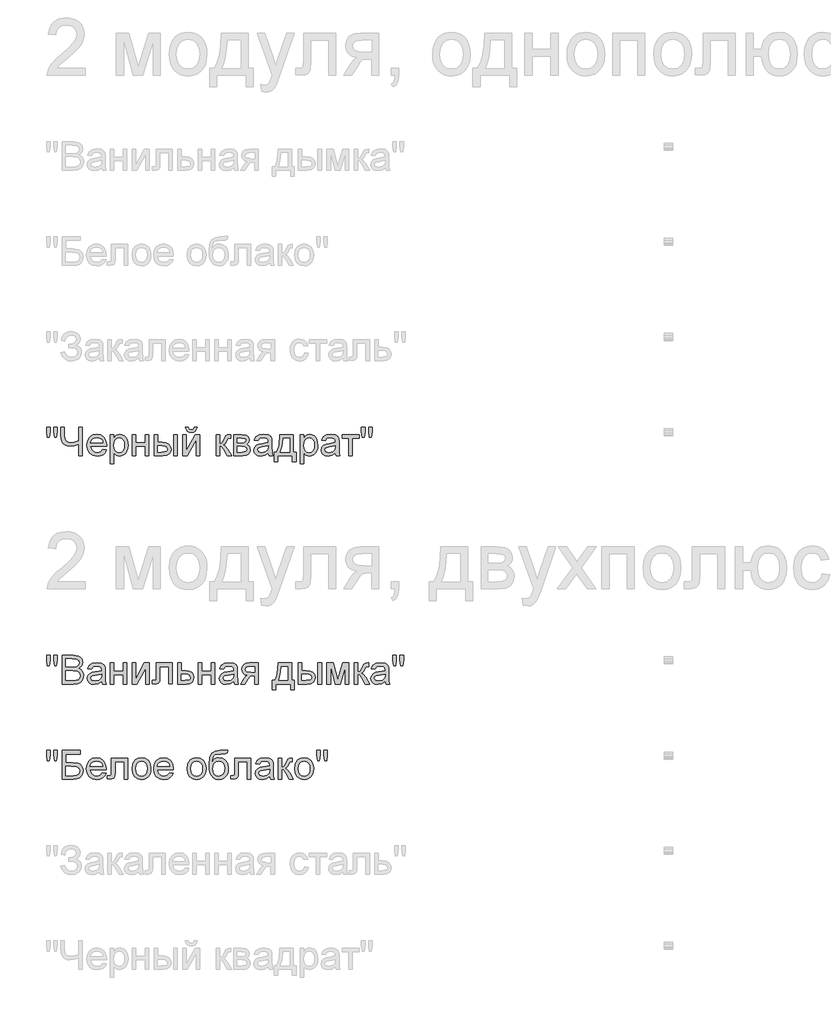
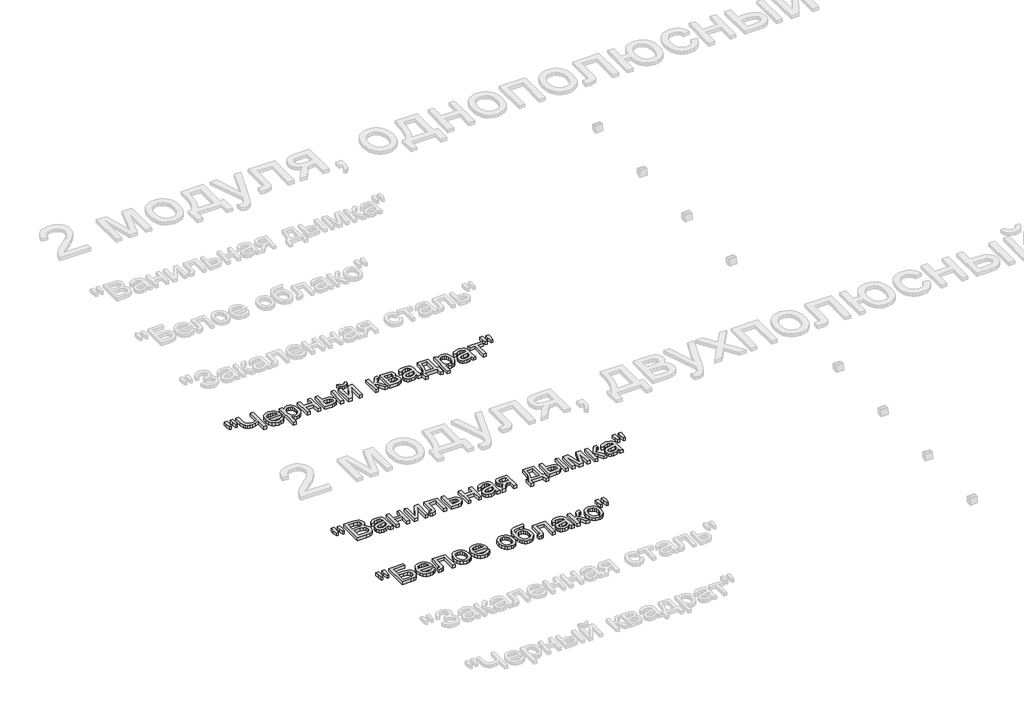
# One storey, part 16 of 168: 3 proxies.
"""IFC4 building model written with IfcOpenShell, lengths in millimetres."""

from ifc_helpers import new_model, si_unit, origin, origin_with_axes, place, context, project, spatial, polyline, outline, extrude, element, save

model = new_model("IFC4")

# Units and contexts
model_context = context("Model", 3, world=origin())
ifc_project = project(units=[si_unit("LENGTHUNIT", "METRE", prefix="MILLI")], contexts=[model_context])

# Site, building, storey
site = spatial("IfcSite", under=ifc_project)
building = spatial("IfcBuilding", under=site)
storey = spatial("IfcBuildingStorey", under=building, Name="Этаж 01", Elevation=0.0)

# Proxies
placement = place(None, origin())
element("IfcBuildingElementProxy", 1, Name="150", ObjectType="150", at=placement, inside=storey, context=model_context, shape_type="SweptSolid", body=[
    extrude(outline(polyline([(41980.1485789, -51264.0640488), (41975.550054, -51234.9645829), (41975.550054, -51209.9118191), (41994.3856121, -51209.9118191), (41994.3856121, -51234.9645829), (41990.2653338, -51264.0640488), (41980.1485789, -51264.0640488)])), origin_with_axes(), (0.0, 0.0, 1.0), 20.0),
    extrude(outline(polyline([(42017.7093306, -51264.0640488), (42013.2211703, -51234.9645829), (42013.2211703, -51209.9118191), (42032.0567284, -51209.9118191), (42032.0567284, -51234.9645829), (42027.6421445, -51264.0640488), (42017.7093306, -51264.0640488)])), origin_with_axes(), (0.0, 0.0, 1.0), 20.0),
    extrude(outline(polyline([(42163.9056355, -51360.5962843), (42145.0700773, -51360.5962843), (42145.0700773, -51300.2636371), (42120.0908899, -51308.4306174), (42098.4226404, -51311.1529441), (42083.7395502, -51309.2905415), (42070.886673, -51303.7033337), (42060.926268, -51295.2512449), (42054.9205944, -51284.7941992), (42050.8922866, -51254.7934225), (42050.8922866, -51209.9118191), (42069.7278447, -51209.9118191), (42069.7278447, -51252.2550367), (42071.990319, -51272.6219037), (42078.7777418, -51284.57347), (42088.7381468, -51290.381407), (42100.5195677, -51292.317386), (42122.2521966, -51289.9813353), (42145.0700773, -51282.9731833), (42145.0700773, -51209.9118191), (42163.9056355, -51209.9118191), (42163.9056355, -51360.5962843)])), origin_with_axes(), (0.0, 0.0, 1.0), 20.0),
    extrude(outline(polyline([(42271.9893657, -51327.6340575), (42290.4570418, -51329.9885023), (42283.8029762, -51343.9036388), (42273.1849822, -51354.3055022), (42258.8421829, -51360.7894223), (42241.0137017, -51362.9507291), (42218.9131908, -51359.2213253), (42201.9078456, -51348.0331142), (42191.0645238, -51330.1126625), (42187.4500832, -51306.1865372), (42191.101312, -51281.4556701), (42202.0549984, -51262.9604028), (42218.8304174, -51251.4273022), (42239.9468439, -51247.5829354), (42260.4056814, -51251.4181052), (42276.7534375, -51262.9236146), (42287.4725992, -51281.3820937), (42291.045653, -51306.0761726), (42290.9352884, -51311.1529441), (42206.2856413, -51311.1529441), (42209.5459955, -51325.2520216), (42217.1197661, -51335.6170968), (42228.0504599, -51341.9906524), (42241.3815837, -51344.1151709), (42259.8492598, -51340.1788336), (42271.9893657, -51327.6340575)]), holes=[polyline([(42206.2856413, -51292.317386), (42272.2100949, -51292.317386), (42269.6625121, -51282.366178), (42264.668514, -51275.2476614), (42253.6872364, -51268.6257855), (42239.8732675, -51266.4184935), (42227.1767401, -51268.1797286), (42216.6783077, -51273.4634337), (42209.3804486, -51281.6993919), (42206.2856413, -51292.317386)])]), origin_with_axes(), (0.0, 0.0, 1.0), 20.0),
    extrude(outline(polyline([(42309.8812112, -51402.9762901), (42309.8812112, -51249.9373802), (42328.7167693, -51249.9373802), (42328.7167693, -51268.4050563), (42341.739792, -51252.7884656), (42359.3245513, -51247.5829354), (42372.0624654, -51249.4039513), (42383.2000928, -51254.8669989), (42392.268384, -51263.6409845), (42398.7982894, -51275.3948142), (42404.0590019, -51304.4207036), (42402.5736784, -51320.5293365), (42398.1177077, -51334.9365151), (42390.8336442, -51346.9110741), (42380.8640422, -51355.7218479), (42369.2527667, -51361.1435088), (42357.043683, -51362.9507291), (42340.6545401, -51358.1130808), (42328.7167693, -51345.8810045), (42328.7167693, -51402.9762901), (42309.8812112, -51402.9762901)]), holes=[polyline([(42328.7167693, -51306.149749), (42330.7539159, -51323.0355326), (42336.8653555, -51334.8445446), (42345.8830629, -51341.7975143), (42356.6390128, -51344.1151709), (42367.5697066, -51341.7147409), (42376.8173402, -51334.5134508), (42383.1219179, -51322.2721775), (42385.2234438, -51304.7517974), (42383.1725017, -51287.9579844), (42377.0196753, -51275.9834254), (42368.0157635, -51268.8097265), (42357.411565, -51266.4184935), (42346.7659797, -51268.9614778), (42337.4171785, -51276.5904307), (42330.8918716, -51289.0662289), (42328.7167693, -51306.149749)])]), origin_with_axes(), (0.0, 0.0, 1.0), 20.0),
    extrude(outline(polyline([(42425.2490049, -51249.9373802), (42444.084563, -51249.9373802), (42444.084563, -51292.317386), (42493.5279032, -51292.317386), (42493.5279032, -51249.9373802), (42512.3634613, -51249.9373802), (42512.3634613, -51360.5962843), (42493.5279032, -51360.5962843), (42493.5279032, -51311.1529441), (42444.084563, -51311.1529441), (42444.084563, -51360.5962843), (42425.2490049, -51360.5962843), (42425.2490049, -51249.9373802)])), origin_with_axes(), (0.0, 0.0, 1.0), 20.0),
    extrude(outline(polyline([(42644.2123684, -51249.9373802), (42663.0479266, -51249.9373802), (42663.0479266, -51360.5962843), (42644.2123684, -51360.5962843), (42644.2123684, -51249.9373802)])), origin_with_axes(), (0.0, 0.0, 1.0), 20.0),
    extrude(outline(polyline([(42540.6167986, -51249.9373802), (42559.4523567, -51249.9373802), (42559.4523567, -51289.9629412), (42582.739287, -51289.9629412), (42602.8670307, -51292.3219845), (42617.780047, -51299.3991144), (42627.0092866, -51310.6241138), (42630.0856998, -51325.4267656), (42627.5059273, -51338.9050422), (42619.7666098, -51350.2771943), (42606.3619096, -51358.0165118), (42586.785989, -51360.5962843), (42540.6167986, -51360.5962843), (42540.6167986, -51249.9373802)]), holes=[polyline([(42559.4523567, -51341.7607261), (42578.8029497, -51341.7607261), (42603.7821371, -51337.8059947), (42609.3831405, -51332.7430187), (42611.2501416, -51325.4635538), (42605.7135176, -51313.8752709), (42596.8337659, -51310.0676923), (42581.267759, -51308.7984994), (42559.4523567, -51308.7984994), (42559.4523567, -51341.7607261)])]), origin_with_axes(), (0.0, 0.0, 1.0), 20.0),
    extrude(outline(polyline([(42691.3012638, -51249.9373802), (42710.1368219, -51249.9373802), (42710.1368219, -51334.3295098), (42756.4163769, -51249.9373802), (42780.770165, -51249.9373802), (42780.770165, -51360.5962843), (42761.9346069, -51360.5962843), (42761.9346069, -51276.7191894), (42715.9493575, -51360.5962843), (42691.3012638, -51360.5962843), (42691.3012638, -51249.9373802)])), origin_with_axes(), (0.0, 0.0, 1.0), 20.0),
    extrude(outline(polyline([(42752.5168278, -51209.9118191), (42766.6434964, -51209.9118191), (42763.6038714, -51221.97375), (42757.5016288, -51230.8626987), (42748.6126801, -51236.3395419), (42737.2129368, -51238.1651563), (42724.8429047, -51236.3533375), (42715.2503817, -51230.917881), (42708.6928851, -51222.0427279), (42705.4279324, -51209.9118191), (42719.554601, -51209.9118191), (42724.8521017, -51220.5252146), (42735.5206796, -51224.0384877), (42747.219327, -51220.6355792), (42752.5168278, -51209.9118191)])), origin_with_axes(), (0.0, 0.0, 1.0), 20.0),
    extrude(outline(polyline([(42867.8846215, -51249.9373802), (42886.7201796, -51249.9373802), (42886.7201796, -51297.0262755), (42899.3385321, -51293.6417612), (42909.6760161, -51273.9232862), (42918.2660607, -51256.908744), (42925.8444298, -51251.3721199), (42939.6216105, -51249.9373802), (42943.2268541, -51249.9373802), (42943.2268541, -51268.8833029), (42938.1500825, -51268.7729383), (42928.9530327, -51270.7595011), (42922.4783096, -51283.1571243), (42914.8815464, -51296.566423), (42904.2313626, -51303.1331167), (42916.113951, -51310.4631654), (42927.7758103, -51325.9050122), (42947.9357436, -51360.5962843), (42926.5250115, -51360.5962843), (42906.7697484, -51326.6407761), (42896.8369345, -51312.2749842), (42886.7201796, -51308.7984994), (42886.7201796, -51360.5962843), (42867.8846215, -51360.5962843), (42867.8846215, -51249.9373802)])), origin_with_axes(), (0.0, 0.0, 1.0), 20.0),
    extrude(outline(polyline([(42959.7079675, -51249.9373802), (43001.2050565, -51249.9373802), (43023.9585579, -51252.4573718), (43036.7608514, -51261.6912099), (43042.1135344, -51277.7860472), (43038.8761728, -51290.8642521), (43029.1273, -51300.1900607), (43041.7824406, -51310.3987861), (43046.8224239, -51328.1490923), (43043.6310476, -51342.5056872), (43036.0434815, -51352.613245), (43024.0321343, -51358.6005245), (43007.569415, -51360.5962843), (42959.7079675, -51360.5962843), (42959.7079675, -51249.9373802)]), holes=[polyline([(42978.5435256, -51292.317386), (42997.1583546, -51292.317386), (43012.5174279, -51291.3608928), (43019.9854324, -51287.5349201), (43023.2779762, -51280.6187385), (43021.8340394, -51274.9993411), (43017.5022289, -51271.3849005), (42997.7469658, -51268.7729383), (42978.5435256, -51268.7729383), (42978.5435256, -51292.317386)]), polyline([(42978.5435256, -51341.7607261), (43001.6465149, -51341.7607261), (43022.137542, -51338.3578177), (43026.377382, -51333.717906), (43027.9868658, -51326.6039879), (43024.7678983, -51317.5356968), (43016.3801888, -51312.2565901), (42999.8071049, -51311.1529441), (42978.5435256, -51311.1529441), (42978.5435256, -51341.7607261)])]), origin_with_axes(), (0.0, 0.0, 1.0), 20.0),
    extrude(outline(polyline([(43141.0002147, -51346.4696157), (43122.7348736, -51359.2351209), (43102.5565462, -51362.9507291), (43086.8157953, -51360.7158459), (43075.2045198, -51354.0111966), (43068.0446165, -51343.8300624), (43065.6579821, -51331.1657247), (43069.2632256, -51316.2665039), (43078.736187, -51305.4507732), (43091.9247565, -51299.2703557), (43108.2219289, -51296.4376643), (43140.8898501, -51289.9629412), (43141.0002147, -51285.7690865), (43139.7034307, -51277.3629829), (43135.8130786, -51271.8631471), (43127.1126694, -51267.7796569), (43114.9909576, -51266.4184935), (43095.9346703, -51270.0421312), (43086.847985, -51282.8996069), (43068.0124268, -51280.5451621), (43076.161013, -51262.1510624), (43092.56855, -51251.3721199), (43117.4189788, -51247.5829354), (43140.2460566, -51250.9306615), (43153.1403205, -51259.3367651), (43158.9160679, -51272.1206645), (43159.8357728, -51288.6017778), (43159.8357728, -51312.0358609), (43160.792266, -51344.7589644), (43164.5446624, -51360.5962843), (43145.7091042, -51360.5962843), (43141.0002147, -51346.4696157)]), holes=[polyline([(43141.0002147, -51308.7984994), (43110.6131619, -51314.5742467), (43094.40796, -51317.6276673), (43087.0687142, -51322.5940742), (43084.4935402, -51329.8413495), (43090.1037407, -51340.0316808), (43106.5664599, -51344.1151709), (43125.6227473, -51339.6086165), (43137.9100059, -51328.7009153), (43140.8898501, -51314.1327883), (43141.0002147, -51308.7984994)])]), origin_with_axes(), (0.0, 0.0, 1.0), 20.0),
    extrude(outline(polyline([(43202.2157787, -51249.9373802), (43272.8491218, -51249.9373802), (43272.8491218, -51341.7607261), (43286.9757904, -51341.7607261), (43286.9757904, -51391.2040663), (43268.1402322, -51391.2040663), (43268.1402322, -51360.5962843), (43190.4435548, -51360.5962843), (43190.4435548, -51391.2040663), (43171.6079967, -51391.2040663), (43171.6079967, -51341.7607261), (43183.3802205, -51341.7607261), (43191.9380754, -51326.2958868), (43197.9299534, -51305.8370493), (43202.2157787, -51249.9373802)]), holes=[polyline([(43218.6968921, -51268.7729383), (43214.2823081, -51311.686373), (43204.5702235, -51341.7607261), (43254.0135636, -51341.7607261), (43254.0135636, -51268.7729383), (43218.6968921, -51268.7729383)])]), origin_with_axes(), (0.0, 0.0, 1.0), 20.0),
    extrude(outline(polyline([(43308.1657933, -51402.9762901), (43308.1657933, -51249.9373802), (43327.0013514, -51249.9373802), (43327.0013514, -51268.4050563), (43340.0243741, -51252.7884656), (43357.6091334, -51247.5829354), (43370.3470475, -51249.4039513), (43381.4846749, -51254.8669989), (43390.5529661, -51263.6409845), (43397.0828715, -51275.3948142), (43402.3435841, -51304.4207036), (43400.8582605, -51320.5293365), (43396.4022898, -51334.9365151), (43389.1182263, -51346.9110741), (43379.1486243, -51355.7218479), (43367.5373488, -51361.1435088), (43355.3282651, -51362.9507291), (43338.9391222, -51358.1130808), (43327.0013514, -51345.8810045), (43327.0013514, -51402.9762901), (43308.1657933, -51402.9762901)]), holes=[polyline([(43327.0013514, -51306.149749), (43329.038498, -51323.0355326), (43335.1499376, -51334.8445446), (43344.167645, -51341.7975143), (43354.9235949, -51344.1151709), (43365.8542887, -51341.7147409), (43375.1019223, -51334.5134508), (43381.4065, -51322.2721775), (43383.5080259, -51304.7517974), (43381.4570838, -51287.9579844), (43375.3042574, -51275.9834254), (43366.3003456, -51268.8097265), (43355.6961471, -51266.4184935), (43345.0505618, -51268.9614778), (43335.7017606, -51276.5904307), (43329.1764537, -51289.0662289), (43327.0013514, -51306.149749)])]), origin_with_axes(), (0.0, 0.0, 1.0), 20.0),
    extrude(outline(polyline([(43494.1669301, -51346.4696157), (43475.901589, -51359.2351209), (43455.7232616, -51362.9507291), (43439.9825107, -51360.7158459), (43428.3712352, -51354.0111966), (43421.2113319, -51343.8300624), (43418.8246974, -51331.1657247), (43422.429941, -51316.2665039), (43431.9029024, -51305.4507732), (43445.0914719, -51299.2703557), (43461.3886443, -51296.4376643), (43494.0565655, -51289.9629412), (43494.1669301, -51285.7690865), (43492.870146, -51277.3629829), (43488.9797939, -51271.8631471), (43480.2793847, -51267.7796569), (43468.157673, -51266.4184935), (43449.1013856, -51270.0421312), (43440.0147004, -51282.8996069), (43421.1791422, -51280.5451621), (43429.3277284, -51262.1510624), (43445.7352654, -51251.3721199), (43470.5856942, -51247.5829354), (43493.412772, -51250.9306615), (43506.3070359, -51259.3367651), (43512.0827832, -51272.1206645), (43513.0024882, -51288.6017778), (43513.0024882, -51312.0358609), (43513.9589814, -51344.7589644), (43517.7113777, -51360.5962843), (43498.8758196, -51360.5962843), (43494.1669301, -51346.4696157)]), holes=[polyline([(43494.1669301, -51308.7984994), (43463.7798773, -51314.5742467), (43447.5746754, -51317.6276673), (43440.2354296, -51322.5940742), (43437.6602556, -51329.8413495), (43443.270456, -51340.0316808), (43459.7331753, -51344.1151709), (43478.7894627, -51339.6086165), (43491.0767213, -51328.7009153), (43494.0565655, -51314.1327883), (43494.1669301, -51308.7984994)])]), origin_with_axes(), (0.0, 0.0, 1.0), 20.0),
    extrude(outline(polyline([(43529.4836016, -51249.9373802), (43618.9525028, -51249.9373802), (43618.9525028, -51268.7729383), (43583.6358313, -51268.7729383), (43583.6358313, -51360.5962843), (43564.8002731, -51360.5962843), (43564.8002731, -51268.7729383), (43529.4836016, -51268.7729383), (43529.4836016, -51249.9373802)])), origin_with_axes(), (0.0, 0.0, 1.0), 20.0),
    extrude(outline(polyline([(43635.3232516, -51264.0640488), (43630.7247267, -51234.9645829), (43630.7247267, -51209.9118191), (43649.5602848, -51209.9118191), (43649.5602848, -51234.9645829), (43645.4400065, -51264.0640488), (43635.3232516, -51264.0640488)])), origin_with_axes(), (0.0, 0.0, 1.0), 20.0),
    extrude(outline(polyline([(43672.8840033, -51264.0640488), (43668.395843, -51234.9645829), (43668.395843, -51209.9118191), (43687.2314011, -51209.9118191), (43687.2314011, -51234.9645829), (43682.8168172, -51264.0640488), (43672.8840033, -51264.0640488)])), origin_with_axes(), (0.0, 0.0, 1.0), 20.0),
])
element("IfcBuildingElementProxy", 2, Name="150", ObjectType="150", at=placement, inside=storey, context=model_context, shape_type="SweptSolid", body=[
    extrude(outline(polyline([(41980.1485789, -52464.0640488), (41975.550054, -52434.9645829), (41975.550054, -52409.9118191), (41994.3856121, -52409.9118191), (41994.3856121, -52434.9645829), (41990.2653338, -52464.0640488), (41980.1485789, -52464.0640488)])), origin_with_axes(), (0.0, 0.0, 1.0), 20.0),
    extrude(outline(polyline([(42017.7093306, -52464.0640488), (42013.2211703, -52434.9645829), (42013.2211703, -52409.9118191), (42032.0567284, -52409.9118191), (42032.0567284, -52434.9645829), (42027.6421445, -52464.0640488), (42017.7093306, -52464.0640488)])), origin_with_axes(), (0.0, 0.0, 1.0), 20.0),
    extrude(outline(polyline([(42057.9556209, -52560.5962843), (42057.9556209, -52409.9118191), (42115.4555767, -52409.9118191), (42143.6169435, -52414.3447971), (42153.0807078, -52419.9687931), (42160.2452096, -52427.974825), (42166.2600803, -52447.2518416), (42161.2017028, -52464.8549951), (42145.9162059, -52478.1907174), (42156.5893823, -52483.7641296), (42164.4758526, -52492.2438096), (42169.3456905, -52503.0687373), (42170.9689698, -52515.6778927), (42166.5359918, -52535.9297965), (42155.5547142, -52550.3507707), (42139.1655713, -52558.0027162), (42115.0141183, -52560.5962843), (42057.9556209, -52560.5962843)]), holes=[polyline([(42076.791179, -52471.1273831), (42111.1881456, -52471.1273831), (42131.2745025, -52469.5087023), (42143.3594261, -52462.5373385), (42147.4245221, -52450.2684739), (42143.6353376, -52437.9812153), (42132.7828187, -52430.7155459), (42108.5761834, -52428.7473772), (42076.791179, -52428.7473772), (42076.791179, -52471.1273831)]), polyline([(42076.791179, -52541.7607261), (42115.4187885, -52541.7607261), (42129.3983043, -52541.0249622), (42141.2257105, -52536.9230779), (42149.061597, -52528.5537625), (42152.1334117, -52515.8618337), (42148.5281681, -52501.2201303), (42136.8479148, -52492.4829329), (42113.5793786, -52489.9629412), (42076.791179, -52489.9629412), (42076.791179, -52541.7607261)])]), origin_with_axes(), (0.0, 0.0, 1.0), 20.0),
    extrude(outline(polyline([(42265.1467606, -52546.4696157), (42246.8814195, -52559.2351209), (42226.7030921, -52562.9507291), (42210.9623412, -52560.7158459), (42199.3510657, -52554.0111966), (42192.1911624, -52543.8300624), (42189.804528, -52531.1657247), (42193.4097715, -52516.2665039), (42202.8827329, -52505.4507732), (42216.0713024, -52499.2703557), (42232.3684748, -52496.4376643), (42265.036396, -52489.9629412), (42265.1467606, -52485.7690865), (42263.8499765, -52477.3629829), (42259.9596244, -52471.8631471), (42251.2592153, -52467.7796569), (42239.1375035, -52466.4184935), (42220.0812162, -52470.0421312), (42210.9945309, -52482.8996069), (42192.1589727, -52480.5451621), (42200.3075589, -52462.1510624), (42216.7150959, -52451.3721199), (42241.5655247, -52447.5829354), (42264.3926025, -52450.9306615), (42277.2868664, -52459.3367651), (42283.0626137, -52472.1206645), (42283.9823187, -52488.6017778), (42283.9823187, -52512.0358609), (42284.9388119, -52544.7589644), (42288.6912083, -52560.5962843), (42269.8556501, -52560.5962843), (42265.1467606, -52546.4696157)]), holes=[polyline([(42265.1467606, -52508.7984994), (42234.7597078, -52514.5742467), (42218.5545059, -52517.6276673), (42211.2152601, -52522.5940742), (42208.6400861, -52529.8413495), (42214.2502865, -52540.0316808), (42230.7130058, -52544.1151709), (42249.7692932, -52539.6086165), (42262.0565518, -52528.7009153), (42265.036396, -52514.1327883), (42265.1467606, -52508.7984994)])]), origin_with_axes(), (0.0, 0.0, 1.0), 20.0),
    extrude(outline(polyline([(42309.8812112, -52449.9373802), (42328.7167693, -52449.9373802), (42328.7167693, -52492.317386), (42378.1601095, -52492.317386), (42378.1601095, -52449.9373802), (42396.9956676, -52449.9373802), (42396.9956676, -52560.5962843), (42378.1601095, -52560.5962843), (42378.1601095, -52511.1529441), (42328.7167693, -52511.1529441), (42328.7167693, -52560.5962843), (42309.8812112, -52560.5962843), (42309.8812112, -52449.9373802)])), origin_with_axes(), (0.0, 0.0, 1.0), 20.0),
    extrude(outline(polyline([(42425.2490049, -52449.9373802), (42444.084563, -52449.9373802), (42444.084563, -52534.3295098), (42490.364118, -52449.9373802), (42514.7179061, -52449.9373802), (42514.7179061, -52560.5962843), (42495.8823479, -52560.5962843), (42495.8823479, -52476.7191894), (42449.8970985, -52560.5962843), (42425.2490049, -52560.5962843), (42425.2490049, -52449.9373802)])), origin_with_axes(), (0.0, 0.0, 1.0), 20.0),
    extrude(outline(polyline([(42552.3890224, -52449.9373802), (42637.1490341, -52449.9373802), (42637.1490341, -52560.4859197), (42618.3134759, -52560.4859197), (42618.3134759, -52468.7729383), (42571.2245806, -52468.7729383), (42571.2245806, -52521.5640046), (42569.9553877, -52545.9177927), (42562.9840239, -52556.2000945), (42546.5029105, -52560.5962843), (42531.1990195, -52559.6397911), (42531.1990195, -52541.7607261), (42539.6235172, -52541.7607261), (42548.1399854, -52540.6018979), (42551.5428938, -52536.9230779), (42552.3890224, -52520.4971468), (42552.3890224, -52449.9373802)])), origin_with_axes(), (0.0, 0.0, 1.0), 20.0),
    extrude(outline(polyline([(42665.4023713, -52449.9373802), (42684.2379295, -52449.9373802), (42684.2379295, -52489.9629412), (42705.9429672, -52489.9629412), (42724.7601312, -52492.3219845), (42738.6844648, -52499.3991144), (42747.2929034, -52510.6241138), (42750.162383, -52525.4267656), (42747.7205663, -52538.9050422), (42740.395116, -52550.2771943), (42727.6985887, -52558.0165118), (42709.1435405, -52560.5962843), (42665.4023713, -52560.5962843), (42665.4023713, -52449.9373802)]), holes=[polyline([(42684.2379295, -52541.7607261), (42701.8226888, -52541.7607261), (42724.539402, -52537.8059947), (42729.6299692, -52532.7430187), (42731.3268249, -52525.4635538), (42726.3052356, -52513.8752709), (42718.2348244, -52510.0676923), (42704.066769, -52508.7984994), (42684.2379295, -52508.7984994), (42684.2379295, -52541.7607261)])]), origin_with_axes(), (0.0, 0.0, 1.0), 20.0),
    extrude(outline(polyline([(42773.7068307, -52449.9373802), (42792.5423889, -52449.9373802), (42792.5423889, -52492.317386), (42841.985729, -52492.317386), (42841.985729, -52449.9373802), (42860.8212872, -52449.9373802), (42860.8212872, -52560.5962843), (42841.985729, -52560.5962843), (42841.985729, -52511.1529441), (42792.5423889, -52511.1529441), (42792.5423889, -52560.5962843), (42773.7068307, -52560.5962843), (42773.7068307, -52449.9373802)])), origin_with_axes(), (0.0, 0.0, 1.0), 20.0),
    extrude(outline(polyline([(42959.7079675, -52546.4696157), (42941.4426264, -52559.2351209), (42921.264299, -52562.9507291), (42905.5235481, -52560.7158459), (42893.9122726, -52554.0111966), (42886.7523693, -52543.8300624), (42884.3657349, -52531.1657247), (42887.9709784, -52516.2665039), (42897.4439398, -52505.4507732), (42910.6325093, -52499.2703557), (42926.9296817, -52496.4376643), (42959.5976029, -52489.9629412), (42959.7079675, -52485.7690865), (42958.4111834, -52477.3629829), (42954.5208313, -52471.8631471), (42945.8204221, -52467.7796569), (42933.6987104, -52466.4184935), (42914.6424231, -52470.0421312), (42905.5557378, -52482.8996069), (42886.7201796, -52480.5451621), (42894.8687658, -52462.1510624), (42911.2763028, -52451.3721199), (42936.1267316, -52447.5829354), (42958.9538094, -52450.9306615), (42971.8480733, -52459.3367651), (42977.6238206, -52472.1206645), (42978.5435256, -52488.6017778), (42978.5435256, -52512.0358609), (42979.5000188, -52544.7589644), (42983.2524152, -52560.5962843), (42964.416857, -52560.5962843), (42959.7079675, -52546.4696157)]), holes=[polyline([(42959.7079675, -52508.7984994), (42929.3209147, -52514.5742467), (42913.1157128, -52517.6276673), (42905.776467, -52522.5940742), (42903.201293, -52529.8413495), (42908.8114934, -52540.0316808), (42925.2742127, -52544.1151709), (42944.3305001, -52539.6086165), (42956.6177587, -52528.7009153), (42959.5976029, -52514.1327883), (42959.7079675, -52508.7984994)])]), origin_with_axes(), (0.0, 0.0, 1.0), 20.0),
    extrude(outline(polyline([(43089.2024298, -52449.9373802), (43089.2024298, -52560.5962843), (43070.3668716, -52560.5962843), (43070.3668716, -52518.2162785), (43060.1029639, -52518.2162785), (43046.1234481, -52520.6075114), (43032.9900609, -52536.6839546), (43017.9804755, -52560.5962843), (42996.2018614, -52560.5962843), (43015.1109959, -52530.3563843), (43023.4619172, -52519.5038654), (43031.1506509, -52514.6846113), (43018.2747811, -52510.7390769), (43009.224884, -52503.2434813), (43003.872201, -52493.2738792), (43002.0879733, -52481.9063255), (43004.5251915, -52469.0120616), (43011.8368462, -52458.8033362), (43023.7654199, -52452.1538692), (43040.0533952, -52449.9373802), (43089.2024298, -52449.9373802)]), holes=[polyline([(43070.3668716, -52468.7729383), (43045.5348369, -52468.7729383), (43032.7095509, -52469.8627887), (43025.4300859, -52473.1323399), (43020.9235315, -52483.3410653), (43022.583599, -52490.5193627), (43027.5638015, -52495.4995653), (43051.0898551, -52499.3807203), (43070.3668716, -52499.3807203), (43070.3668716, -52468.7729383)])]), origin_with_axes(), (0.0, 0.0, 1.0), 20.0),
    extrude(outline(polyline([(43192.7979996, -52449.9373802), (43263.4313427, -52449.9373802), (43263.4313427, -52541.7607261), (43277.5580113, -52541.7607261), (43277.5580113, -52591.2040663), (43258.7224531, -52591.2040663), (43258.7224531, -52560.5962843), (43181.0257758, -52560.5962843), (43181.0257758, -52591.2040663), (43162.1902176, -52591.2040663), (43162.1902176, -52541.7607261), (43173.9624415, -52541.7607261), (43182.5202964, -52526.2958868), (43188.5121744, -52505.8370493), (43192.7979996, -52449.9373802)]), holes=[polyline([(43209.279113, -52468.7729383), (43204.864529, -52511.686373), (43195.1524444, -52541.7607261), (43244.5957845, -52541.7607261), (43244.5957845, -52468.7729383), (43209.279113, -52468.7729383)])]), origin_with_axes(), (0.0, 0.0, 1.0), 20.0),
    extrude(outline(polyline([(43402.3435841, -52449.9373802), (43421.1791422, -52449.9373802), (43421.1791422, -52560.5962843), (43402.3435841, -52560.5962843), (43402.3435841, -52449.9373802)])), origin_with_axes(), (0.0, 0.0, 1.0), 20.0),
    extrude(outline(polyline([(43298.7480142, -52449.9373802), (43317.5835724, -52449.9373802), (43317.5835724, -52489.9629412), (43340.8705027, -52489.9629412), (43360.9982463, -52492.3219845), (43375.9112627, -52499.3991144), (43385.1405023, -52510.6241138), (43388.2169154, -52525.4267656), (43385.637143, -52538.9050422), (43377.8978255, -52550.2771943), (43364.4931253, -52558.0165118), (43344.9172046, -52560.5962843), (43298.7480142, -52560.5962843), (43298.7480142, -52449.9373802)]), holes=[polyline([(43317.5835724, -52541.7607261), (43336.9341653, -52541.7607261), (43361.9133528, -52537.8059947), (43367.5143562, -52532.7430187), (43369.3813573, -52525.4635538), (43363.8447333, -52513.8752709), (43354.9649816, -52510.0676923), (43339.3989747, -52508.7984994), (43317.5835724, -52508.7984994), (43317.5835724, -52541.7607261)])]), origin_with_axes(), (0.0, 0.0, 1.0), 20.0),
    extrude(outline(polyline([(43449.4324794, -52449.9373802), (43481.8428832, -52449.9373802), (43506.8220707, -52538.5233646), (43533.7510327, -52449.9373802), (43564.8002731, -52449.9373802), (43564.8002731, -52560.5962843), (43545.964715, -52560.5962843), (43545.964715, -52471.4952651), (43518.8886001, -52560.5962843), (43494.1669301, -52560.5962843), (43468.2680376, -52467.2278339), (43468.2680376, -52560.5962843), (43449.4324794, -52560.5962843), (43449.4324794, -52449.9373802)])), origin_with_axes(), (0.0, 0.0, 1.0), 20.0),
    extrude(outline(polyline([(43593.0536104, -52449.9373802), (43611.8891685, -52449.9373802), (43611.8891685, -52497.0262755), (43624.5075209, -52493.6417612), (43634.845005, -52473.9232862), (43643.4350496, -52456.908744), (43651.0134187, -52451.3721199), (43664.7905994, -52449.9373802), (43668.395843, -52449.9373802), (43668.395843, -52468.8833029), (43663.3190714, -52468.7729383), (43654.1220216, -52470.7595011), (43647.6472984, -52483.1571243), (43640.0505352, -52496.566423), (43629.4003515, -52503.1331167), (43641.2829399, -52510.4631654), (43652.9447992, -52525.9050122), (43673.1047325, -52560.5962843), (43651.6940004, -52560.5962843), (43631.9387372, -52526.6407761), (43622.0059234, -52512.2749842), (43611.8891685, -52508.7984994), (43611.8891685, -52560.5962843), (43593.0536104, -52560.5962843), (43593.0536104, -52449.9373802)])), origin_with_axes(), (0.0, 0.0, 1.0), 20.0),
    extrude(outline(polyline([(43755.5102994, -52546.4696157), (43737.2449584, -52559.2351209), (43717.0666309, -52562.9507291), (43701.3258801, -52560.7158459), (43689.7146046, -52554.0111966), (43682.5547013, -52543.8300624), (43680.1680668, -52531.1657247), (43683.7733104, -52516.2665039), (43693.2462717, -52505.4507732), (43706.4348413, -52499.2703557), (43722.7320137, -52496.4376643), (43755.3999348, -52489.9629412), (43755.5102994, -52485.7690865), (43754.2135154, -52477.3629829), (43750.3231633, -52471.8631471), (43741.6227541, -52467.7796569), (43729.5010424, -52466.4184935), (43710.444755, -52470.0421312), (43701.3580697, -52482.8996069), (43682.5225116, -52480.5451621), (43690.6710978, -52462.1510624), (43707.0786348, -52451.3721199), (43731.9290635, -52447.5829354), (43754.7561413, -52450.9306615), (43767.6504053, -52459.3367651), (43773.4261526, -52472.1206645), (43774.3458576, -52488.6017778), (43774.3458576, -52512.0358609), (43775.3023508, -52544.7589644), (43779.0547471, -52560.5962843), (43760.219189, -52560.5962843), (43755.5102994, -52546.4696157)]), holes=[polyline([(43755.5102994, -52508.7984994), (43725.1232466, -52514.5742467), (43708.9180447, -52517.6276673), (43701.5787989, -52522.5940742), (43699.003625, -52529.8413495), (43704.6138254, -52540.0316808), (43721.0765447, -52544.1151709), (43740.132832, -52539.6086165), (43752.4200907, -52528.7009153), (43755.3999348, -52514.1327883), (43755.5102994, -52508.7984994)])]), origin_with_axes(), (0.0, 0.0, 1.0), 20.0),
    extrude(outline(polyline([(43800.1343854, -52464.0640488), (43795.5358605, -52434.9645829), (43795.5358605, -52409.9118191), (43814.3714187, -52409.9118191), (43814.3714187, -52434.9645829), (43810.2511403, -52464.0640488), (43800.1343854, -52464.0640488)])), origin_with_axes(), (0.0, 0.0, 1.0), 20.0),
    extrude(outline(polyline([(43837.6951372, -52464.0640488), (43833.2069768, -52434.9645829), (43833.2069768, -52409.9118191), (43852.042535, -52409.9118191), (43852.042535, -52434.9645829), (43847.627951, -52464.0640488), (43837.6951372, -52464.0640488)])), origin_with_axes(), (0.0, 0.0, 1.0), 20.0),
])
element("IfcBuildingElementProxy", 3, Name="150", ObjectType="150", at=placement, inside=storey, context=model_context, shape_type="SweptSolid", body=[
    extrude(outline(polyline([(41980.1485789, -52964.0640488), (41975.550054, -52934.9645829), (41975.550054, -52909.9118191), (41994.3856121, -52909.9118191), (41994.3856121, -52934.9645829), (41990.2653338, -52964.0640488), (41980.1485789, -52964.0640488)])), origin_with_axes(), (0.0, 0.0, 1.0), 20.0),
    extrude(outline(polyline([(42017.7093306, -52964.0640488), (42013.2211703, -52934.9645829), (42013.2211703, -52909.9118191), (42032.0567284, -52909.9118191), (42032.0567284, -52934.9645829), (42027.6421445, -52964.0640488), (42017.7093306, -52964.0640488)])), origin_with_axes(), (0.0, 0.0, 1.0), 20.0),
    extrude(outline(polyline([(42057.9556209, -52909.9118191), (42152.1334117, -52909.9118191), (42152.1334117, -52928.7473772), (42076.791179, -52928.7473772), (42076.791179, -52973.4818278), (42112.0710624, -52973.4818278), (42143.157091, -52977.3078006), (42153.5589544, -52982.8352276), (42161.6615553, -52991.765563), (42166.8762826, -53003.2618754), (42168.614525, -53016.4872331), (42163.6665122, -53037.9531475), (42148.8960501, -53054.268714), (42135.6247071, -53059.0143917), (42115.4555767, -53060.5962843), (42057.9556209, -53060.5962843), (42057.9556209, -52909.9118191)]), holes=[polyline([(42076.791179, -53041.7607261), (42117.1478339, -53041.7607261), (42131.4124583, -53040.2064247), (42141.6119866, -53035.5435204), (42147.7372218, -53027.7720133), (42149.7789669, -53016.8919033), (42145.1068655, -53002.1398353), (42132.102237, -52994.2671606), (42103.7201411, -52992.317386), (42076.791179, -52992.317386), (42076.791179, -53041.7607261)])]), origin_with_axes(), (0.0, 0.0, 1.0), 20.0),
    extrude(outline(polyline([(42269.6349209, -53027.6340575), (42288.1025971, -53029.9885023), (42281.4485315, -53043.9036388), (42270.8305374, -53054.3055022), (42256.4877381, -53060.7894223), (42238.6592569, -53062.9507291), (42216.5587461, -53059.2213253), (42199.5534008, -53048.0331142), (42188.710079, -53030.1126625), (42185.0956384, -53006.1865372), (42188.7468672, -52981.4556701), (42199.7005536, -52962.9604028), (42216.4759726, -52951.4273022), (42237.5923991, -52947.5829354), (42258.0512366, -52951.4181052), (42274.3989927, -52962.9236146), (42285.1181544, -52981.3820937), (42288.6912083, -53006.0761726), (42288.5808437, -53011.1529441), (42203.9311966, -53011.1529441), (42207.1915508, -53025.2520216), (42214.7653213, -53035.6170968), (42225.6960151, -53041.9906524), (42239.0271389, -53044.1151709), (42257.4948151, -53040.1788336), (42269.6349209, -53027.6340575)]), holes=[polyline([(42203.9311966, -52992.317386), (42269.8556501, -52992.317386), (42267.3080673, -52982.366178), (42262.3140692, -52975.2476614), (42251.3327917, -52968.6257855), (42237.5188227, -52966.4184935), (42224.8222954, -52968.1797286), (42214.3238629, -52973.4634337), (42207.0260039, -52981.6993919), (42203.9311966, -52992.317386)])]), origin_with_axes(), (0.0, 0.0, 1.0), 20.0),
    extrude(outline(polyline([(42316.9445455, -52949.9373802), (42401.7045572, -52949.9373802), (42401.7045572, -53060.4859197), (42382.868999, -53060.4859197), (42382.868999, -52968.7729383), (42335.7801036, -52968.7729383), (42335.7801036, -53021.5640046), (42334.5109108, -53045.9177927), (42327.539547, -53056.2000945), (42311.0584336, -53060.5962843), (42295.7545426, -53059.6397911), (42295.7545426, -53041.7607261), (42304.1790403, -53041.7607261), (42312.6955084, -53040.6018979), (42316.0984169, -53036.9230779), (42316.9445455, -53020.4971468), (42316.9445455, -52949.9373802)])), origin_with_axes(), (0.0, 0.0, 1.0), 20.0),
    extrude(outline(polyline([(42425.2490049, -53005.2668322), (42429.323298, -52978.5861905), (42441.5461773, -52959.8334058), (42456.6477332, -52950.645553), (42474.7291332, -52947.5829354), (42494.516586, -52951.3123391), (42510.3217163, -52962.5005503), (42520.6821929, -52980.2646521), (42524.1356852, -53003.7217278), (42522.6089749, -53022.750424), (42518.0288441, -53037.2357776), (42510.5286499, -53048.0836979), (42500.2417496, -53056.2000945), (42488.0234688, -53061.2630704), (42474.7291332, -53062.9507291), (42454.7025571, -53059.2351209), (42438.915821, -53048.0882965), (42428.6657089, -53029.9517141), (42425.2490049, -53005.2668322)]), holes=[polyline([(42444.084563, -53005.230044), (42446.2642638, -53022.276776), (42452.8033663, -53034.4214803), (42462.6442097, -53041.6917483), (42474.7291332, -53044.1151709), (42486.7588745, -53041.6779527), (42496.5813237, -53034.366298), (42503.1204262, -53022.0606453), (42505.300127, -53004.6414328), (42503.1066306, -52988.0913416), (42496.5261414, -52976.1121841), (42486.6898966, -52968.8419162), (42474.7291332, -52966.4184935), (42462.6442097, -52968.8327191), (42452.8033663, -52976.0753959), (42446.2642638, -52988.1925091), (42444.084563, -53005.230044)])]), origin_with_axes(), (0.0, 0.0, 1.0), 20.0),
    extrude(outline(polyline([(42622.8016363, -53027.6340575), (42641.2693124, -53029.9885023), (42634.6152469, -53043.9036388), (42623.9972528, -53054.3055022), (42609.6544535, -53060.7894223), (42591.8259723, -53062.9507291), (42569.7254614, -53059.2213253), (42552.7201162, -53048.0331142), (42541.8767944, -53030.1126625), (42538.2623538, -53006.1865372), (42541.9135826, -52981.4556701), (42552.867269, -52962.9604028), (42569.642688, -52951.4273022), (42590.7591145, -52947.5829354), (42611.217952, -52951.4181052), (42627.5657081, -52962.9236146), (42638.2848698, -52981.3820937), (42641.8579236, -53006.0761726), (42641.747559, -53011.1529441), (42557.0979119, -53011.1529441), (42560.3582661, -53025.2520216), (42567.9320367, -53035.6170968), (42578.8627305, -53041.9906524), (42592.1938543, -53044.1151709), (42610.6615304, -53040.1788336), (42622.8016363, -53027.6340575)]), holes=[polyline([(42557.0979119, -52992.317386), (42623.0223655, -52992.317386), (42620.4747827, -52982.366178), (42615.4807846, -52975.2476614), (42604.499507, -52968.6257855), (42590.6855381, -52966.4184935), (42577.9890107, -52968.1797286), (42567.4905783, -52973.4634337), (42560.1927192, -52981.6993919), (42557.0979119, -52992.317386)])]), origin_with_axes(), (0.0, 0.0, 1.0), 20.0),
    extrude(outline(polyline([(42714.8457115, -53005.2668322), (42718.9200046, -52978.5861905), (42731.1428839, -52959.8334058), (42746.2444398, -52950.645553), (42764.3258398, -52947.5829354), (42784.1132926, -52951.3123391), (42799.9184229, -52962.5005503), (42810.2788995, -52980.2646521), (42813.7323918, -53003.7217278), (42812.2056815, -53022.750424), (42807.6255507, -53037.2357776), (42800.1253565, -53048.0836979), (42789.8384562, -53056.2000945), (42777.6201754, -53061.2630704), (42764.3258398, -53062.9507291), (42744.2992637, -53059.2351209), (42728.5125276, -53048.0882965), (42718.2624155, -53029.9517141), (42714.8457115, -53005.2668322)]), holes=[polyline([(42733.6812696, -53005.230044), (42735.8609704, -53022.276776), (42742.4000729, -53034.4214803), (42752.2409163, -53041.6917483), (42764.3258398, -53044.1151709), (42776.3555811, -53041.6779527), (42786.1780303, -53034.366298), (42792.7171328, -53022.0606453), (42794.8968336, -53004.6414328), (42792.7033372, -52988.0913416), (42786.122848, -52976.1121841), (42776.2866032, -52968.8419162), (42764.3258398, -52966.4184935), (42752.2409163, -52968.8327191), (42742.4000729, -52976.0753959), (42735.8609704, -52988.1925091), (42733.6812696, -53005.230044)])]), origin_with_axes(), (0.0, 0.0, 1.0), 20.0),
    extrude(outline(polyline([(42912.6190721, -52907.5573743), (42929.1001855, -52907.5573743), (42924.2441431, -52922.25426), (42914.6424231, -52927.5701548), (42891.576222, -52928.7473772), (42860.5085875, -52933.0883848), (42853.3808738, -52938.7353734), (42848.5892108, -52946.9943242), (42844.560903, -52971.6056297), (42860.8764695, -52953.5794119), (42870.7954878, -52949.0820545), (42881.9009255, -52947.5829354), (42901.4998388, -52951.3951126), (42917.401538, -52962.8316441), (42927.9413572, -52980.7704899), (42931.4546302, -53004.0896098), (42929.7117893, -53022.0698424), (42924.4832664, -53036.5000136), (42907.9469707, -53056.0529417), (42896.6529935, -53061.2262822), (42881.9009255, -53062.9507291), (42864.9001788, -53060.7296415), (42852.1576662, -53054.0663789), (42842.7812738, -53043.940427), (42835.8788879, -53031.3312716), (42831.6298508, -53012.3439621), (42830.2135052, -52983.0835479), (42833.786559, -52946.9437404), (42844.5057207, -52924.9030104), (42862.6377045, -52913.6596169), (42888.449225, -52909.9118191), (42909.4184987, -52909.4887548), (42912.6190721, -52907.5573743)]), holes=[polyline([(42912.6190721, -53003.5009986), (42910.577327, -52988.6799528), (42904.4520918, -52976.8111599), (42894.6112484, -52969.0166601), (42881.4226789, -52966.4184935), (42867.6730893, -52969.1638129), (42857.473561, -52977.3997711), (42851.1551877, -52990.2250571), (42849.0490633, -53006.7383602), (42851.3759169, -53022.7458255), (42858.3564778, -53034.4950567), (42868.7491442, -53041.7101424), (42881.3123143, -53044.1151709), (42893.9398638, -53041.3330633), (42903.937057, -53032.9867406), (42910.4485683, -53020.0510899), (42912.6190721, -53003.5009986)])]), origin_with_axes(), (0.0, 0.0, 1.0), 20.0),
    extrude(outline(polyline([(42964.416857, -52949.9373802), (43049.1768687, -52949.9373802), (43049.1768687, -53060.4859197), (43030.3413105, -53060.4859197), (43030.3413105, -52968.7729383), (42983.2524152, -52968.7729383), (42983.2524152, -53021.5640046), (42981.9832223, -53045.9177927), (42975.0118585, -53056.2000945), (42958.5307451, -53060.5962843), (42943.2268541, -53059.6397911), (42943.2268541, -53041.7607261), (42951.6513518, -53041.7607261), (42960.16782, -53040.6018979), (42963.5707284, -53036.9230779), (42964.416857, -53020.4971468), (42964.416857, -52949.9373802)])), origin_with_axes(), (0.0, 0.0, 1.0), 20.0),
    extrude(outline(polyline([(43148.063549, -53046.4696157), (43129.7982079, -53059.2351209), (43109.6198805, -53062.9507291), (43093.8791296, -53060.7158459), (43082.2678542, -53054.0111966), (43075.1079508, -53043.8300624), (43072.7213164, -53031.1657247), (43076.3265599, -53016.2665039), (43085.7995213, -53005.4507732), (43098.9880908, -52999.2703557), (43115.2852632, -52996.4376643), (43147.9531844, -52989.9629412), (43148.063549, -52985.7690865), (43146.766765, -52977.3629829), (43142.8764129, -52971.8631471), (43134.1760037, -52967.7796569), (43122.0542919, -52966.4184935), (43102.9980046, -52970.0421312), (43093.9113193, -52982.8996069), (43075.0757612, -52980.5451621), (43083.2243473, -52962.1510624), (43099.6318843, -52951.3721199), (43124.4823131, -52947.5829354), (43147.3093909, -52950.9306615), (43160.2036548, -52959.3367651), (43165.9794022, -52972.1206645), (43166.8991071, -52988.6017778), (43166.8991071, -53012.0358609), (43167.8556003, -53044.7589644), (43171.6079967, -53060.5962843), (43152.7724385, -53060.5962843), (43148.063549, -53046.4696157)]), holes=[polyline([(43148.063549, -53008.7984994), (43117.6764962, -53014.5742467), (43101.4712943, -53017.6276673), (43094.1320485, -53022.5940742), (43091.5568745, -53029.8413495), (43097.167075, -53040.0316808), (43113.6297942, -53044.1151709), (43132.6860816, -53039.6086165), (43144.9733402, -53028.7009153), (43147.9531844, -53014.1327883), (43148.063549, -53008.7984994)])]), origin_with_axes(), (0.0, 0.0, 1.0), 20.0),
    extrude(outline(polyline([(43192.7979996, -52949.9373802), (43211.6335578, -52949.9373802), (43211.6335578, -52997.0262755), (43224.2519102, -52993.6417612), (43234.5893943, -52973.9232862), (43243.1794388, -52956.908744), (43250.7578079, -52951.3721199), (43264.5349887, -52949.9373802), (43268.1402322, -52949.9373802), (43268.1402322, -52968.8833029), (43263.0634607, -52968.7729383), (43253.8664108, -52970.7595011), (43247.3916877, -52983.1571243), (43239.7949245, -52996.566423), (43229.1447407, -53003.1331167), (43241.0273292, -53010.4631654), (43252.6891884, -53025.9050122), (43272.8491218, -53060.5962843), (43251.4383896, -53060.5962843), (43231.6831265, -53026.6407761), (43221.7503126, -53012.2749842), (43211.6335578, -53008.7984994), (43211.6335578, -53060.5962843), (43192.7979996, -53060.5962843), (43192.7979996, -52949.9373802)])), origin_with_axes(), (0.0, 0.0, 1.0), 20.0),
    extrude(outline(polyline([(43279.9124561, -53005.2668322), (43283.9867492, -52978.5861905), (43296.2096285, -52959.8334058), (43311.3111844, -52950.645553), (43329.3925844, -52947.5829354), (43349.1800372, -52951.3123391), (43364.9851674, -52962.5005503), (43375.3456441, -52980.2646521), (43378.7991364, -53003.7217278), (43377.2724261, -53022.750424), (43372.6922952, -53037.2357776), (43365.1921011, -53048.0836979), (43354.9052008, -53056.2000945), (43342.68692, -53061.2630704), (43329.3925844, -53062.9507291), (43309.3660083, -53059.2351209), (43293.5792722, -53048.0882965), (43283.3291601, -53029.9517141), (43279.9124561, -53005.2668322)]), holes=[polyline([(43298.7480142, -53005.230044), (43300.927715, -53022.276776), (43307.4668175, -53034.4214803), (43317.3076609, -53041.6917483), (43329.3925844, -53044.1151709), (43341.4223257, -53041.6779527), (43351.2447749, -53034.366298), (43357.7838774, -53022.0606453), (43359.9635782, -53004.6414328), (43357.7700818, -52988.0913416), (43351.1895926, -52976.1121841), (43341.3533478, -52968.8419162), (43329.3925844, -52966.4184935), (43317.3076609, -52968.8327191), (43307.4668175, -52976.0753959), (43300.927715, -52988.1925091), (43298.7480142, -53005.230044)])]), origin_with_axes(), (0.0, 0.0, 1.0), 20.0),
    extrude(outline(polyline([(43399.8787747, -52964.0640488), (43395.2802498, -52934.9645829), (43395.2802498, -52909.9118191), (43414.1158079, -52909.9118191), (43414.1158079, -52934.9645829), (43409.9955296, -52964.0640488), (43399.8787747, -52964.0640488)])), origin_with_axes(), (0.0, 0.0, 1.0), 20.0),
    extrude(outline(polyline([(43437.4395264, -52964.0640488), (43432.9513661, -52934.9645829), (43432.9513661, -52909.9118191), (43451.7869242, -52909.9118191), (43451.7869242, -52934.9645829), (43447.3723403, -52964.0640488), (43437.4395264, -52964.0640488)])), origin_with_axes(), (0.0, 0.0, 1.0), 20.0),
])

save(model, "model.ifc")
